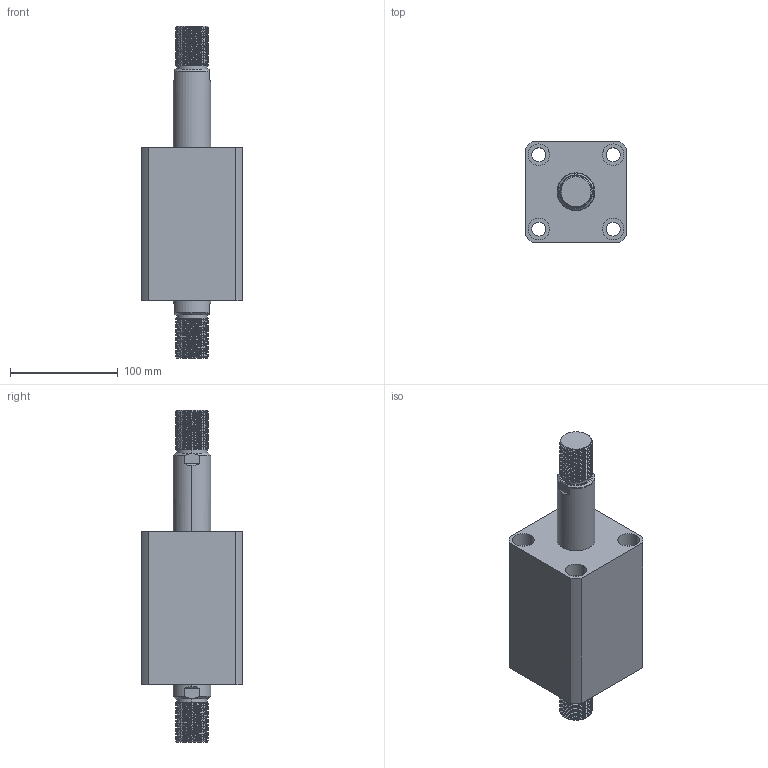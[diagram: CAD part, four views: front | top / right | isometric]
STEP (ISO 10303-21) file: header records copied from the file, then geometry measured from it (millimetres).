
FILE_DESCRIPTION (( 'STEP AP214' ), '1' );
FILE_NAME ('chtb-sw63x60w_asm.STEP', '2018-05-19T03:21:23', ( 'Windows' ), ( 'Microsoft' ), 'SwSTEP 2.0', 'SolidWorks 2015', '' );
FILE_SCHEMA (( 'AUTOMOTIVE_DESIGN' ));
Length unit declared in the file: millimetre
Products named in the file (4): CHTB-SW63X60WHSG; CHTB-SW63X60NBT; CHTB-63QG; chtb-sw63x60w_asm
Assembly tree (3 placements, depth 2):
  chtb-sw63x60w_asm
    CHTB-63QG
    CHTB-SW63X60NBT
    CHTB-SW63X60WHSG
Bounding box: 94 x 94 x 308 mm (x, y, z)
Volume: 1149647.1 mm3; surface area: 185199.2 mm2
Topology: 3 solids, 3 shells, 296 faces, 841 edges, 569 vertices
Faces by surface type: cylinder 206, plane 46, bspline 16, cone 16, torus 12
Entity records: 27380 total; most frequent: CARTESIAN_POINT 20442, ORIENTED_EDGE 1674, DIRECTION 1166, EDGE_CURVE 837, VERTEX_POINT 569, AXIS2_PLACEMENT_3D 453, EDGE_LOOP 334, ADVANCED_FACE 296
